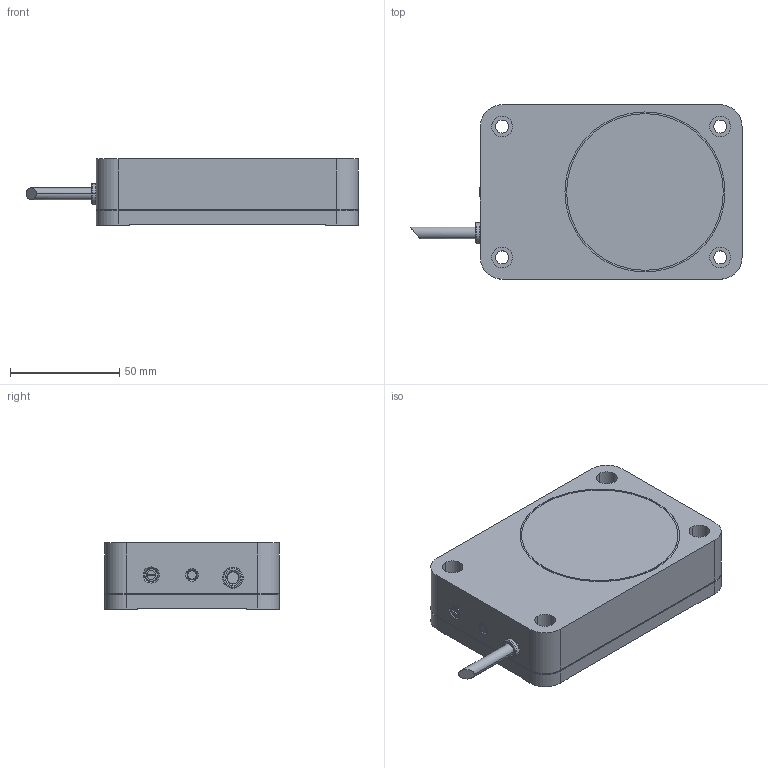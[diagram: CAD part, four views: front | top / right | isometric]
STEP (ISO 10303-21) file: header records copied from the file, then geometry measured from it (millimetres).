
FILE_DESCRIPTION( ( '' ), '1' );
FILE_NAME( '//partserver001.servicenet/client_exchange/iodir/jobs/output/wkb15158296_no1/STEP/kd0012_2_03.stp', '2009-03-19T07:18:40', ( '' ), ( '' ), ' ', ' ', ' ' );
FILE_SCHEMA( ( 'CONFIG_CONTROL_DESIGN' ) );
Length unit declared in the file: millimetre
Products named in the file (1): 1
Bounding box: 152.25 x 80 x 30.3 mm (x, y, z)
Volume: 281678.2 mm3; surface area: 34065.9 mm2
Topology: 1 solids, 1 shells, 125 faces, 308 edges, 204 vertices
Faces by surface type: cylinder 52, plane 49, cone 14, torus 10
Entity records: 3828 total; most frequent: DIRECTION 718, CARTESIAN_POINT 638, ORIENTED_EDGE 616, EDGE_CURVE 308, AXIS2_PLACEMENT_3D 284, VERTEX_POINT 204, CIRCLE 156, EDGE_LOOP 152
